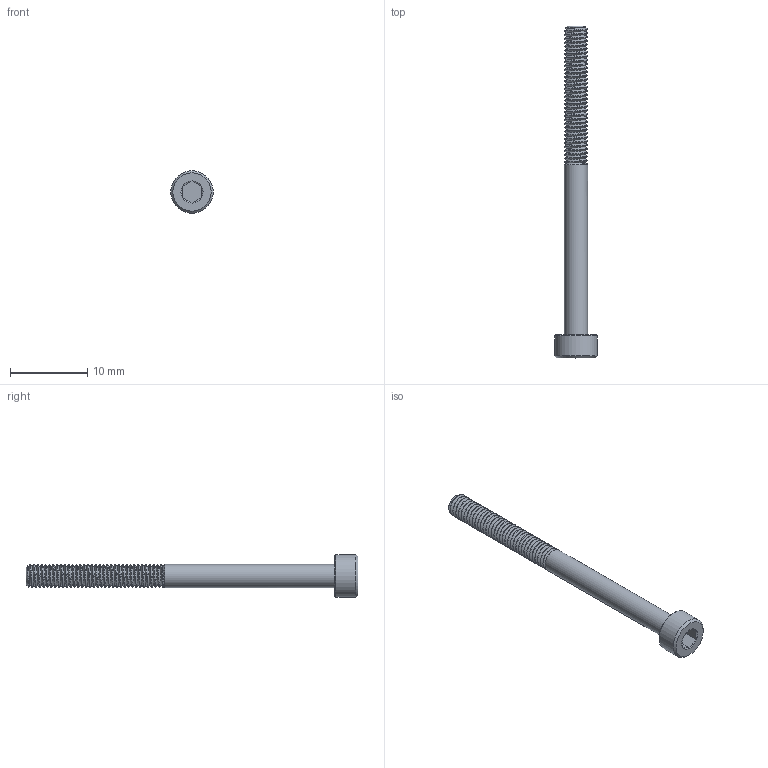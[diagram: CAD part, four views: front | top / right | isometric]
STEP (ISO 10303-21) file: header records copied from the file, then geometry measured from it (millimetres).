
FILE_DESCRIPTION(/* description */ ('STEP AP242 Edition 2','CAx-IF Rec.Pracs.---Representation and Presentation of Product Manufacturing Information (PMI)---4.0---2014-10-13','CAx-IF Rec.Pracs.---3D Tessellated Geometry---0.4---2014-09-14','2;1','CAx-IF Rec.Pracs.---User Defined Attributes---1.5---2016-08-15'),/* implementation_level */ '2;1');
FILE_NAME(/* name */ 'Assembly V2 - 92290A128_Super-Corrosion-Resistant 316 Stainless Steel Socket Head Screw_2',/* time_stamp */ '2026-02-05T22:44:35Z',/* author */ (''),/* organization */ (''),/* preprocessor_version */ 'ST-DEVELOPER v20',/* originating_system */ 'ONSHAPE BY PTC INC, 1.210',/* authorisation */ ' ');
FILE_SCHEMA (('AP242_MANAGED_MODEL_BASED_3D_ENGINEERING_MIM_LF { 1 0 10303 442 3 1 4 }'));
Length unit declared in the file: metre
Products named in the file (1): 92290A128_Super-Corrosion-Resistant 316 Stainless Steel Socket Head S
crew_2
Bounding box: 5.5 x 43 x 5.5 mm (x, y, z)
Volume: 317.8 mm3; surface area: 578.2 mm2
Topology: 1 solids, 1 shells, 60 faces, 229 edges, 173 vertices
Faces by surface type: cylinder 38, plane 10, cone 10, bspline 2
Full cylindrical faces by diameter (mm): 3 x35, 5.5 x1
Entity records: 4176 total; most frequent: CARTESIAN_POINT 3410, ORIENTED_EDGE 230, EDGE_CURVE 115, VERTEX_POINT 99, DIRECTION 94, AXIS2_PLACEMENT_3D 41, EDGE_LOOP 32, FACE_BOUND 32
